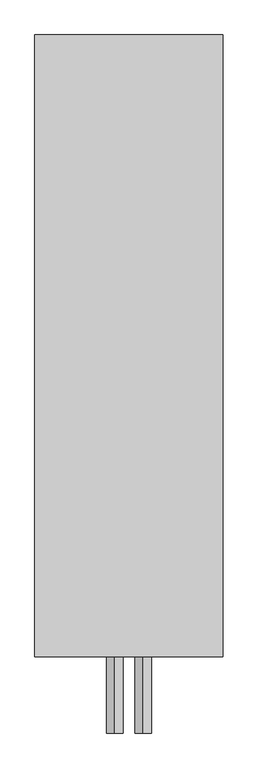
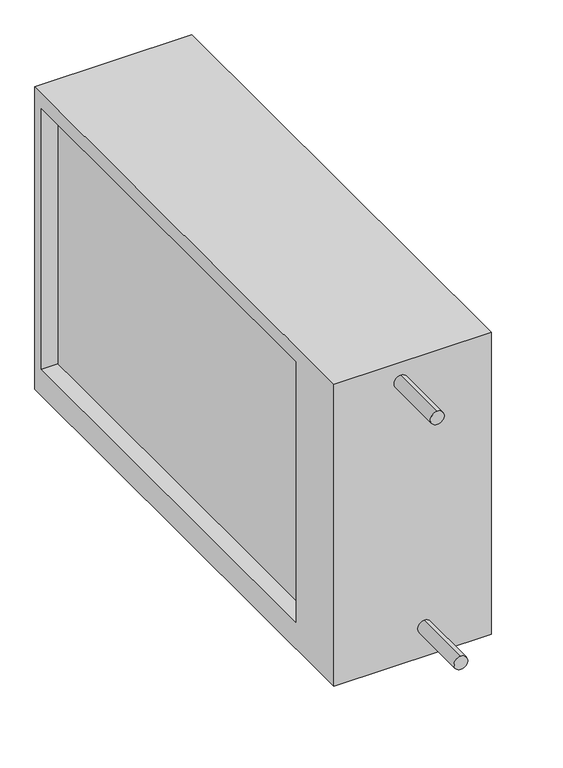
"""IFC4 building model written with IfcOpenShell, lengths in millimetres: proxy geometry, СВ_ВоздухоохладительВодяной_КанальныйПрямоугольный_200-1000_SPC-W : SPC-W-800x500-R."""

from ifc_helpers import new_model, si_unit, point, frame, frame_2d, origin, place, context, project, spatial, polyline, circle_curve, trimmed, segment, composite_curve, outline, extrude, source, transform, mapped, element, save


def mechanical_equipment_57107fca(model_context):
    return source(origin(), model_context, "Body", "SweptSolid", [
        extrude(outline(polyline([(-520.0, -300.0), (-520.0, 280.0), (420.0, 280.0), (420.0, -300.0), (-520.0, -300.0)]), holes=[polyline([(-400.0, 250.0), (-400.0, -250.0), (400.0, -250.0), (400.0, 250.0), (-400.0, 250.0)])]), frame((-142.5, 0.0, 0.0), z_axis=(1.0, 0.0, 0.0), x_axis=(0.0, 1.0, 0.0)), (0.0, 0.0, 1.0), 285.0),
        extrude(outline(composite_curve([segment(trimmed(circle_curve(frame_2d((-242.5, 21.5)), 12.5), [point((-230.0, 21.5))], [point((-255.0, 21.5))], False, "CARTESIAN"), True, "CONTINUOUS"), segment(trimmed(circle_curve(frame_2d((-242.5, 21.5)), 12.5), [point((-255.0, 21.5))], [point((-230.0, 21.5))], False, "CARTESIAN"), True, "CONTINUOUS")], self_intersect=False)), frame((0.0, -635.0, 0.0), z_axis=(0.0, 1.0, 0.0), x_axis=(0.0, 0.0, 1.0)), (0.0, 0.0, 1.0), 115.0),
        extrude(outline(composite_curve([segment(trimmed(circle_curve(frame_2d((242.5, -21.5)), 12.5), [point((255.0, -21.5))], [point((230.0, -21.5))], False, "CARTESIAN"), True, "CONTINUOUS"), segment(trimmed(circle_curve(frame_2d((242.5, -21.5)), 12.5), [point((230.0, -21.5))], [point((255.0, -21.5))], False, "CARTESIAN"), True, "CONTINUOUS")], self_intersect=False)), frame((0.0, -635.0, 0.0), z_axis=(0.0, 1.0, 0.0), x_axis=(0.0, 0.0, 1.0)), (0.0, 0.0, 1.0), 115.0),
        extrude(outline(composite_curve([segment(trimmed(circle_curve(frame_2d((0.0, -480.0)), 11.0), [point((-11.0, -480.0))], [point((11.0, -480.0))], False, "CARTESIAN"), True, "CONTINUOUS"), segment(trimmed(circle_curve(frame_2d((0.0, -480.0)), 11.0), [point((11.0, -480.0))], [point((-11.0, -480.0))], False, "CARTESIAN"), True, "CONTINUOUS")], self_intersect=False)), frame((0.0, 0.0, -320.0), z_axis=(0.0, 0.0, 1.0), x_axis=(1.0, 0.0, 0.0)), (0.0, 0.0, 1.0), 20.0),
        extrude(outline(polyline([(112.5, 400.0), (112.5, -400.0), (-112.5, -400.0), (-112.5, 400.0), (112.5, 400.0)])), frame((0.0, 0.0, -250.0), z_axis=(0.0, 0.0, 1.0), x_axis=(1.0, 0.0, 0.0)), (0.0, 0.0, 1.0), 500.0),
    ])


if __name__ == "__main__":
    model = new_model("IFC4")
    model_context = context("Model", 3, world=origin())
    ifc_project = project(units=[si_unit("LENGTHUNIT", "METRE", prefix="MILLI")], contexts=[model_context])
    site = spatial("IfcSite", under=ifc_project)
    building = spatial("IfcBuilding", under=site)
    placement = place(None, origin())
    mechanical_equipment_shape = mechanical_equipment_57107fca(model_context)
    element("IfcBuildingElementProxy", 1, Name="СВ_ВоздухоохладительВодяной_КанальныйПрямоугольный_200-1000_SPC-W : SPC-W-800x500-R", ObjectType="СВ_ВоздухоохладительВодяной_КанальныйПрямоугольный_200-1000_SPC-W : SPC-W-800x500-R", at=placement, inside=building, context=model_context, shape_type="MappedRepresentation", body=[
        mapped(mechanical_equipment_shape, transform((0.0, 0.0, 0.0), x_axis=(1.0, 0.0, 0.0), y_axis=(0.0, 1.0, 0.0), z_axis=(0.0, 0.0, 1.0))),
    ])
    save(model, "model.ifc")
